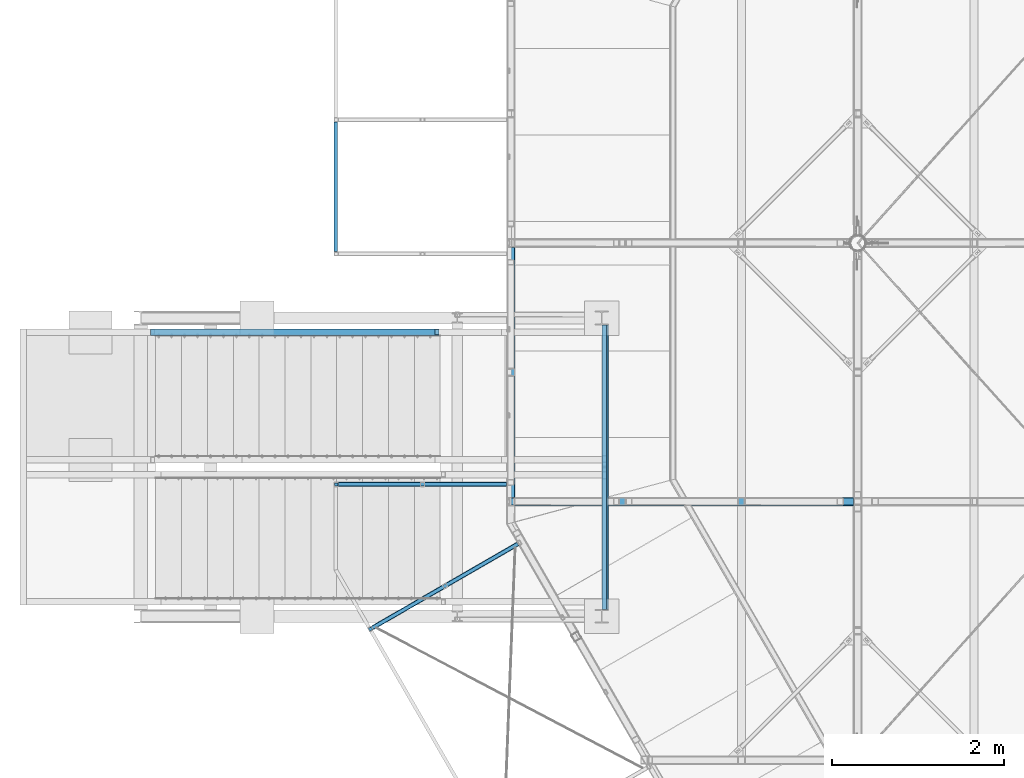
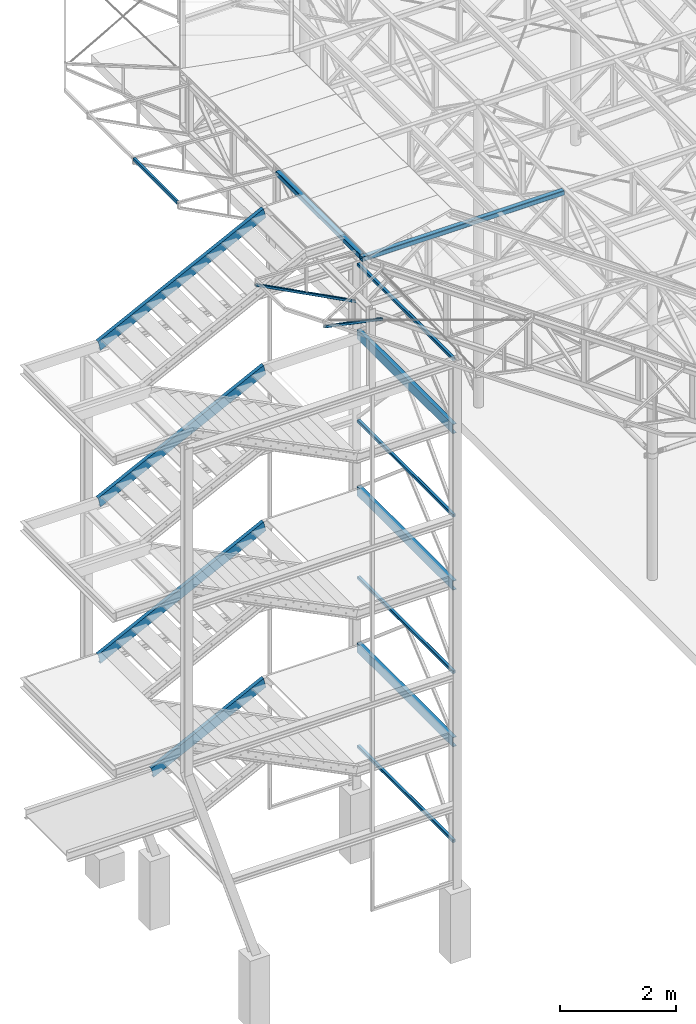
# One storey, part 7 of 132: 10 beams, 6 members, 16 elements without a shape of their own.
"""IFC2X3 building model written with IfcOpenShell, lengths in millimetres."""

import ifcopenshell
import ifcopenshell.guid

model = None  # the IFC model being written
_history = None  # IfcOwnerHistory: only IFC2X3 demands one
_inside = {}  # id of a spatial element -> (the spatial element, [elements in it])
_under = {}  # id of a project, library or spatial element -> (it, [spatial elements below it])
_declared = {}  # id of a project -> (the project, [libraries it declares])
_typed = {}  # id of a type object -> (the type object, [elements of that type])
_made_of = {}  # id of a material, layer set ... -> (it, [elements and type objects made of it])


def new_model(schema):
    """Start an empty IFC model of exactly this schema.

    Asked for "IFC4X3", IfcOpenShell would pick the latest addendum, in which some entities
    have other attributes; the version numbers below select the first issue.
    IFC2X3 requires an IfcOwnerHistory on every rooted entity: one is made here for all.
    """
    global model, _history
    if schema == "IFC4X3":
        model = ifcopenshell.file(schema_version=(4, 3, 0, 0))
    else:
        model = ifcopenshell.file(schema=schema)
    _inside.clear()
    _under.clear()
    _declared.clear()
    _typed.clear()
    _made_of.clear()
    _history = None
    if model.schema == "IFC2X3":
        org = make("IfcOrganization", Name="unknown")
        user = make(
            "IfcPersonAndOrganization",
            ThePerson=make("IfcPerson", FamilyName="unknown"),
            TheOrganization=org,
        )
        app = make(
            "IfcApplication",
            ApplicationDeveloper=org,
            Version="unknown",
            ApplicationFullName="unknown",
            ApplicationIdentifier="unknown",
        )
        _history = make(
            "IfcOwnerHistory",
            OwningUser=user,
            OwningApplication=app,
            ChangeAction="ADDED",
            CreationDate=0,
        )
    return model


def make(cls, **values):
    """One entity of the class cls with the attributes given. An attribute that is None is left unset."""
    return model.create_entity(
        cls, **{name: value for name, value in values.items() if value is not None}
    )


def rooted(cls, **values):
    """An entity with a GlobalId (a new one), such as an element, a storey or a relation."""
    return make(cls, GlobalId=ifcopenshell.guid.new(), OwnerHistory=_history, **values)


def si_unit(unit_type, name, prefix=None):
    """IfcSIUnit, for example si_unit("LENGTHUNIT", "METRE", prefix="MILLI")."""
    return make("IfcSIUnit", UnitType=unit_type, Prefix=prefix, Name=name)


def assignment(units):
    """IfcUnitAssignment: the units of a project."""
    return None if units is None else make("IfcUnitAssignment", Units=units)


def point(xyz):
    """IfcCartesianPoint."""
    return None if xyz is None else make("IfcCartesianPoint", Coordinates=xyz)


def direction(xyz):
    """IfcDirection."""
    return None if xyz is None else make("IfcDirection", DirectionRatios=xyz)


def frame(location, z_axis=None, x_axis=None):
    """IfcAxis2Placement3D, a coordinate frame: its origin and axes. An axis left out is left unset."""
    return make(
        "IfcAxis2Placement3D",
        Location=point(location),
        Axis=direction(z_axis),
        RefDirection=direction(x_axis),
    )


def frame_2d(location, x_axis=None):
    """IfcAxis2Placement2D, a coordinate frame in the plane: its origin and x axis."""
    return make(
        "IfcAxis2Placement2D", Location=point(location), RefDirection=direction(x_axis)
    )


def origin_with_axes():
    """The frame at (0, 0, 0) with the z axis (0, 0, 1) and the x axis (1, 0, 0) written out."""
    return frame((0.0, 0.0, 0.0), z_axis=(0.0, 0.0, 1.0), x_axis=(1.0, 0.0, 0.0))


def origin_2d_with_axis():
    """The frame at (0, 0) in the plane with the x axis (1, 0) written out."""
    return frame_2d((0.0, 0.0), x_axis=(1.0, 0.0))


def place(relative_to, where):
    """IfcLocalPlacement: puts the frame where relative to a parent placement (None: the world)."""
    return make(
        "IfcLocalPlacement", PlacementRelTo=relative_to, RelativePlacement=where
    )


def context(
    kind, dimensions, precision=None, world=None, true_north=None, identifier=None
):
    """IfcGeometricRepresentationContext, for example the 3D "Model" context."""
    return make(
        "IfcGeometricRepresentationContext",
        ContextIdentifier=identifier,
        ContextType=kind,
        CoordinateSpaceDimension=dimensions,
        Precision=precision,
        WorldCoordinateSystem=world,
        TrueNorth=true_north,
    )


def subcontext(parent, identifier, kind, view, scale=None):
    """IfcGeometricRepresentationSubContext, for example "Body" below "Model"."""
    return make(
        "IfcGeometricRepresentationSubContext",
        ContextIdentifier=identifier,
        ContextType=kind,
        ParentContext=parent,
        TargetScale=scale,
        TargetView=view,
    )


def project(units=None, contexts=None):
    """IfcProject with its units and contexts."""
    return rooted(
        "IfcProject",
        Name="project",
        RepresentationContexts=contexts,
        UnitsInContext=assignment(units),
    )


def spatial(cls, under=None, at=None, **own):
    """A site, building, storey or space (cls), placed at a placement, below another one or the project."""
    s = rooted(cls, ObjectPlacement=at, **own)
    if under is not None:
        _under.setdefault(under.id(), (under, []))[1].append(s)
    return s


def profile(cls, at=None, kind="AREA", **sizes):
    """A parametric profile (cls). Its sizes go by their IFC names, for example OverallWidth=200.0."""
    return make(cls, ProfileType=kind, Position=at, **sizes)


def hollow_rectangle(**sizes):
    """IfcRectangleHollowProfileDef."""
    return profile("IfcRectangleHollowProfileDef", **sizes)


def u_section(**sizes):
    """IfcUShapeProfileDef."""
    return profile("IfcUShapeProfileDef", **sizes)


def extrude(swept, where, along, depth):
    """IfcExtrudedAreaSolid: the profile swept, set in the frame where, extruded along a direction by depth."""
    return make(
        "IfcExtrudedAreaSolid",
        SweptArea=swept,
        Position=where,
        ExtrudedDirection=direction(along),
        Depth=depth,
    )


def clip(a, b, op="DIFFERENCE"):
    """IfcBooleanClippingResult: the solid a cut by the half space b."""
    return make(
        "IfcBooleanClippingResult", Operator=op, FirstOperand=a, SecondOperand=b
    )


def halfspace(plane, agree):
    """IfcHalfSpaceSolid: all space on one side of the plane z = 0 of the frame plane."""
    return make(
        "IfcHalfSpaceSolid",
        BaseSurface=make("IfcPlane", Position=plane),
        AgreementFlag=agree,
    )


def shape(context_of_items, identifier, shape_type, items):
    """IfcShapeRepresentation: the items that make up one representation, for example the "Body"."""
    return make(
        "IfcShapeRepresentation",
        ContextOfItems=context_of_items,
        RepresentationIdentifier=identifier,
        RepresentationType=shape_type,
        Items=items,
    )


def material(Name=None, Category=None):
    """IfcMaterial."""
    return make("IfcMaterial", Name=Name, Category=Category)


def made_of(thing, what):
    """Note that an element or type object is made of a material, layer set ...; save() writes the relation."""
    if what is not None:
        _made_of.setdefault(what.id(), (what, []))[1].append(thing)
    return thing


def type_object(cls, material=None, **own):
    """A type object (cls), such as IfcWallType, which elements share."""
    return made_of(rooted(cls, **own), material)


def element(
    cls,
    number,
    at=None,
    inside=None,
    cuts=None,
    type_object=None,
    material=None,
    context=None,
    identifier="Body",
    shape_type=None,
    held_by="IfcProductDefinitionShape",
    body=None,
    shapes=None,
    **own,
):
    """One element of the class cls, such as IfcWall. Its Tag is "e" and its number.

    at: its placement. inside: the storey or other place that contains it. cuts: it is an
    opening in that element (IfcRelVoidsElement). A single representation is given by context,
    identifier, shape_type and body (its items); several are given by shapes. held_by: the class
    of the entity that holds the representations. save() writes the other relations.
    """
    e = rooted(cls, Tag="e%d" % number, ObjectPlacement=at, **own)
    if body is not None:
        shapes = [shape(context, identifier, shape_type, body)]
    if shapes is not None:
        e.Representation = make(held_by, Representations=shapes)
    if inside is not None:
        _inside.setdefault(inside.id(), (inside, []))[1].append(e)
    if cuts is not None:
        rooted(
            "IfcRelVoidsElement", RelatingBuildingElement=cuts, RelatedOpeningElement=e
        )
    if type_object is not None:
        _typed.setdefault(type_object.id(), (type_object, []))[1].append(e)
    return made_of(e, material)


def aggregate(whole, parts):
    """IfcRelAggregates: a whole, such as a stair, and the parts it consists of."""
    return rooted("IfcRelAggregates", RelatingObject=whole, RelatedObjects=parts)


def save(model, path):
    """Write the relations noted so far, then the file.

    IfcRelAggregates (storeys below a building ...), IfcRelContainedInSpatialStructure (elements
    in a storey), IfcRelDefinesByType, IfcRelAssociatesMaterial and IfcRelDeclares: one each for
    every whole, place, type object, material and project.
    """
    for whole, parts in _under.values():
        aggregate(whole, parts)
    for where, things in _inside.values():
        rooted(
            "IfcRelContainedInSpatialStructure",
            RelatedElements=things,
            RelatingStructure=where,
        )
    for kind, things in _typed.values():
        rooted("IfcRelDefinesByType", RelatedObjects=things, RelatingType=kind)
    for what, things in _made_of.values():
        rooted("IfcRelAssociatesMaterial", RelatedObjects=things, RelatingMaterial=what)
    for by, libraries in _declared.values():
        rooted("IfcRelDeclares", RelatingContext=by, RelatedDefinitions=libraries)
    model.write(path)


model = new_model("IFC2X3")

# Units and contexts
model_context = context("Model", 3, precision=1e-05, world=origin_with_axes())
body_context = subcontext(model_context, "Body", "Model", "MODEL_VIEW")
ifc_project = project(units=[si_unit("LENGTHUNIT", "METRE", prefix="MILLI"), si_unit("AREAUNIT", "SQUARE_METRE"), si_unit("VOLUMEUNIT", "CUBIC_METRE"), si_unit("MASSUNIT", "GRAM", prefix="KILO"), si_unit("TIMEUNIT", "SECOND"), si_unit("PLANEANGLEUNIT", "RADIAN"), si_unit("SOLIDANGLEUNIT", "STERADIAN"), si_unit("THERMODYNAMICTEMPERATUREUNIT", "DEGREE_CELSIUS"), si_unit("LUMINOUSINTENSITYUNIT", "LUMEN")], contexts=[model_context])

# Site, building, storey
site_placement = place(None, origin_with_axes())
site = spatial("IfcSite", under=ifc_project, at=site_placement, Name="Budowa", CompositionType="ELEMENT")
building_placement = place(site_placement, origin_with_axes())
building = spatial("IfcBuilding", under=site, at=building_placement, Name="Undefined", CompositionType="ELEMENT")
storey_placement = place(building_placement, origin_with_axes())
storey = spatial("IfcBuildingStorey", under=building, at=storey_placement, Name="Undefined", CompositionType="ELEMENT", Elevation=0.0)

# Assembly, beam
assembly_1_placement = place(storey_placement, origin_with_axes())
assembly_1 = element("IfcElementAssembly", 1, at=assembly_1_placement, inside=storey, Name="Steel Assembly", AssemblyPlace="NOTDEFINED", PredefinedType="RIGID_FRAME")
ifc_material = material(Name="STEEL/S235")
beam_type_1 = type_object("IfcBeamType", Name="SHS60*4", PredefinedType="NOTDEFINED")
beam_1_placement = place(assembly_1_placement, frame((1084.99999991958, 7750.00000004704, 12070.0), z_axis=(0.0, 0.0, 1.0), x_axis=(0.0, 1.0, 0.0)))
beam_1 = element("IfcBeam", 2, at=beam_1_placement, type_object=beam_type_1, material=ifc_material, Name="COLUMN", ObjectType="SHS60*4", context=body_context, shape_type="SweptSolid", body=[
    extrude(hollow_rectangle(XDim=60.0, YDim=60.0, WallThickness=4.0, InnerFilletRadius=4.0, OuterFilletRadius=8.0, at=origin_2d_with_axis()), frame((3300.0, 0.0, 0.0), z_axis=(-1.0, 0.0, 0.0), x_axis=(0.0, -1.0, 0.0)), (0.0, 0.0, 1.0), 3300.0),
])
aggregate(assembly_1, [beam_1])

assembly_2_placement = place(storey_placement, origin_with_axes())
assembly_2 = element("IfcElementAssembly", 3, at=assembly_2_placement, inside=storey, Name="Steel Assembly", AssemblyPlace="NOTDEFINED", PredefinedType="RIGID_FRAME")
beam_2_placement = place(assembly_2_placement, frame((1084.99999991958, 7750.00000004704, 8770.0), z_axis=(0.0, 0.0, 1.0), x_axis=(0.0, 1.0, 0.0)))
beam_2 = element("IfcBeam", 4, at=beam_2_placement, type_object=beam_type_1, material=ifc_material, Name="COLUMN", ObjectType="SHS60*4", context=body_context, shape_type="SweptSolid", body=[
    extrude(hollow_rectangle(XDim=60.0, YDim=60.0, WallThickness=4.0, InnerFilletRadius=4.0, OuterFilletRadius=8.0, at=origin_2d_with_axis()), frame((3300.0, 0.0, 0.0), z_axis=(-1.0, 0.0, 0.0), x_axis=(0.0, -1.0, 0.0)), (0.0, 0.0, 1.0), 3300.0),
])
aggregate(assembly_2, [beam_2])

assembly_3_placement = place(storey_placement, origin_with_axes())
assembly_3 = element("IfcElementAssembly", 5, at=assembly_3_placement, inside=storey, Name="Steel Assembly", AssemblyPlace="NOTDEFINED", PredefinedType="RIGID_FRAME")
beam_3_placement = place(assembly_3_placement, frame((1084.99999991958, 7750.00000004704, 5470.0), z_axis=(0.0, 0.0, 1.0), x_axis=(0.0, 1.0, 0.0)))
beam_3 = element("IfcBeam", 6, at=beam_3_placement, type_object=beam_type_1, material=ifc_material, Name="COLUMN", ObjectType="SHS60*4", context=body_context, shape_type="SweptSolid", body=[
    extrude(hollow_rectangle(XDim=60.0, YDim=60.0, WallThickness=4.0, InnerFilletRadius=4.0, OuterFilletRadius=8.0, at=origin_2d_with_axis()), frame((3300.0, 0.0, 0.0), z_axis=(-1.0, 0.0, 0.0), x_axis=(0.0, -1.0, 0.0)), (0.0, 0.0, 1.0), 3300.0),
])
aggregate(assembly_3, [beam_3])

assembly_4_placement = place(storey_placement, origin_with_axes())
assembly_4 = element("IfcElementAssembly", 7, at=assembly_4_placement, inside=storey, Name="Steel Assembly", AssemblyPlace="NOTDEFINED", PredefinedType="RIGID_FRAME")
beam_4_placement = place(assembly_4_placement, frame((1084.99999991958, 7750.00000004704, 1910.0), z_axis=(0.0, 0.0, 1.0), x_axis=(0.0, 1.0, 0.0)))
beam_4 = element("IfcBeam", 8, at=beam_4_placement, type_object=beam_type_1, material=ifc_material, Name="COLUMN", ObjectType="SHS60*4", context=body_context, shape_type="SweptSolid", body=[
    extrude(hollow_rectangle(XDim=60.0, YDim=60.0, WallThickness=4.0, InnerFilletRadius=4.0, OuterFilletRadius=8.0, at=origin_2d_with_axis()), frame((3300.0, 0.0, 0.0), z_axis=(-1.0, 0.0, 0.0), x_axis=(0.0, -1.0, 0.0)), (0.0, 0.0, 1.0), 3300.0),
])
aggregate(assembly_4, [beam_4])

# Assembly, member
assembly_5_placement = place(storey_placement, origin_with_axes())
assembly_5 = element("IfcElementAssembly", 9, at=assembly_5_placement, inside=storey, Name="Steel Assembly", AssemblyPlace="NOTDEFINED", PredefinedType="RIGID_FRAME")
member_type_1 = type_object("IfcMemberType", Name="UPN200", PredefinedType="NOTDEFINED")
member_1_placement = place(assembly_5_placement, frame((-835.278640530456, 10962.5000000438, 13910.5572809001), z_axis=(-0.447213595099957, 0.0, 0.894427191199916), x_axis=(-0.894427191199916, 0.0, -0.447213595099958)))
member_1 = element("IfcMember", 10, at=member_1_placement, type_object=member_type_1, material=ifc_material, Name="BELKA", ObjectType="UPN200", context=body_context, shape_type="Clipping", body=[
    clip(clip(extrude(u_section(Depth=200.0, FlangeWidth=75.0, WebThickness=8.5, FlangeThickness=11.5, FilletRadius=11.5, EdgeRadius=6.0, at=origin_2d_with_axis()), frame((3846.10752494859, 0.0, 0.0), z_axis=(-1.0, 0.0, 0.0), x_axis=(0.0, -1.0, 0.0)), (0.0, 0.0, 1.0), 3955.49), halfspace(frame((3689.51216621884, -1.81898940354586e-12, 99.9999999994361), z_axis=(0.973248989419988, 0.0, 0.229752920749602), x_axis=(0.0, 1.0, 0.0)), False)), halfspace(frame((3.68624523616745e-06, -37.5000000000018, 99.9999999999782), z_axis=(-0.97324898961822, 0.0, -0.229752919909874), x_axis=(0.0, -1.0, 0.0)), False)),
])
aggregate(assembly_5, [member_1])

assembly_6_placement = place(storey_placement, origin_with_axes())
assembly_6 = element("IfcElementAssembly", 11, at=assembly_6_placement, inside=storey, Name="Steel Assembly", AssemblyPlace="NOTDEFINED", PredefinedType="RIGID_FRAME")
member_2_placement = place(assembly_6_placement, frame((-835.278640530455, 10962.5000000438, 10610.5572809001), z_axis=(-0.447213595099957, 0.0, 0.894427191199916), x_axis=(-0.894427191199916, 0.0, -0.447213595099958)))
member_2 = element("IfcMember", 12, at=member_2_placement, type_object=member_type_1, material=ifc_material, Name="BELKA", ObjectType="UPN200", context=body_context, shape_type="Clipping", body=[
    clip(clip(extrude(u_section(Depth=200.0, FlangeWidth=75.0, WebThickness=8.5, FlangeThickness=11.5, FilletRadius=11.5, EdgeRadius=6.0, at=origin_2d_with_axis()), frame((3846.10752494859, 0.0, 0.0), z_axis=(-1.0, 0.0, 0.0), x_axis=(0.0, -1.0, 0.0)), (0.0, 0.0, 1.0), 3955.49), halfspace(frame((3689.51216621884, -1.81898940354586e-12, 99.9999999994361), z_axis=(0.973248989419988, 0.0, 0.229752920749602), x_axis=(0.0, 1.0, 0.0)), False)), halfspace(frame((3.68624523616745e-06, -37.5000000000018, 99.9999999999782), z_axis=(-0.97324898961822, 0.0, -0.229752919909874), x_axis=(0.0, -1.0, 0.0)), False)),
])
aggregate(assembly_6, [member_2])

assembly_7_placement = place(storey_placement, origin_with_axes())
assembly_7 = element("IfcElementAssembly", 13, at=assembly_7_placement, inside=storey, Name="Steel Assembly", AssemblyPlace="NOTDEFINED", PredefinedType="RIGID_FRAME")
member_3_placement = place(assembly_7_placement, frame((-835.278640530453, 10962.5000000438, 7310.5572809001), z_axis=(-0.447213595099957, 0.0, 0.894427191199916), x_axis=(-0.894427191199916, 0.0, -0.447213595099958)))
member_3 = element("IfcMember", 14, at=member_3_placement, type_object=member_type_1, material=ifc_material, Name="BELKA", ObjectType="UPN200", context=body_context, shape_type="Clipping", body=[
    clip(clip(extrude(u_section(Depth=200.0, FlangeWidth=75.0, WebThickness=8.5, FlangeThickness=11.5, FilletRadius=11.5, EdgeRadius=6.0, at=origin_2d_with_axis()), frame((3846.10752494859, 0.0, 0.0), z_axis=(-1.0, 0.0, 0.0), x_axis=(0.0, -1.0, 0.0)), (0.0, 0.0, 1.0), 3955.49), halfspace(frame((3689.51216621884, -1.81898940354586e-12, 99.9999999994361), z_axis=(0.973248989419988, 0.0, 0.229752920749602), x_axis=(0.0, 1.0, 0.0)), False)), halfspace(frame((3.68624523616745e-06, -37.5000000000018, 99.9999999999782), z_axis=(-0.97324898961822, 0.0, -0.229752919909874), x_axis=(0.0, -1.0, 0.0)), False)),
])
aggregate(assembly_7, [member_3])

assembly_8_placement = place(storey_placement, origin_with_axes())
assembly_8 = element("IfcElementAssembly", 15, at=assembly_8_placement, inside=storey, Name="Steel Assembly", AssemblyPlace="NOTDEFINED", PredefinedType="RIGID_FRAME")
member_4_placement = place(assembly_8_placement, frame((-835.278640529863, 10962.5000000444, 4010.55728089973), z_axis=(-0.447213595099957, 0.0, 0.894427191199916), x_axis=(-0.894427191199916, 0.0, -0.447213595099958)))
member_4 = element("IfcMember", 16, at=member_4_placement, type_object=member_type_1, material=ifc_material, Name="BELKA", ObjectType="UPN200", context=body_context, shape_type="Clipping", body=[
    clip(clip(extrude(u_section(Depth=200.0, FlangeWidth=75.0, WebThickness=8.5, FlangeThickness=11.5, FilletRadius=11.5, EdgeRadius=6.0, at=origin_2d_with_axis()), frame((2660.99149153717, 1.81898940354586e-12, 0.0), z_axis=(-1.0, 0.0, 0.0), x_axis=(0.0, -1.0, 0.0)), (0.0, 0.0, 1.0), 2770.37), halfspace(frame((2504.39613251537, 1.56433088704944e-09, 100.000000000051), z_axis=(0.973248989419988, 0.0, 0.229752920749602), x_axis=(0.0, 1.0, 0.0)), False)), halfspace(frame((3.68624523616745e-06, -37.5000000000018, 99.9999999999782), z_axis=(-0.97324898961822, 0.0, -0.229752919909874), x_axis=(0.0, -1.0, 0.0)), False)),
])
aggregate(assembly_8, [member_4])

# Assembly, beam
assembly_9_placement = place(storey_placement, origin_with_axes())
assembly_9 = element("IfcElementAssembly", 17, at=assembly_9_placement, inside=storey, Name="Steel Assembly", AssemblyPlace="NOTDEFINED", PredefinedType="RIGID_FRAME")
beam_type_2 = type_object("IfcBeamType", Name="UPE200", PredefinedType="NOTDEFINED")
beam_5_placement = place(assembly_9_placement, frame((1094.99999991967, 7750.00000004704, 10600.0), z_axis=(0.0, 0.0, 1.0), x_axis=(0.0, 1.0, 0.0)))
beam_5 = element("IfcBeam", 18, at=beam_5_placement, type_object=beam_type_2, material=ifc_material, Name="COLUMN", ObjectType="UPE200", context=body_context, shape_type="SweptSolid", body=[
    extrude(u_section(Depth=200.0, FlangeWidth=80.0, WebThickness=7.5, FlangeThickness=11.0, FilletRadius=12.0, EdgeRadius=3.0, at=origin_2d_with_axis()), frame((3300.0, 0.0, 0.0), z_axis=(-1.0, 0.0, 0.0), x_axis=(0.0, -1.0, 0.0)), (0.0, 0.0, 1.0), 3300.0),
])
aggregate(assembly_9, [beam_5])

assembly_10_placement = place(storey_placement, origin_with_axes())
assembly_10 = element("IfcElementAssembly", 19, at=assembly_10_placement, inside=storey, Name="Steel Assembly", AssemblyPlace="NOTDEFINED", PredefinedType="RIGID_FRAME")
beam_6_placement = place(assembly_10_placement, frame((1094.99999991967, 7750.00000004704, 7300.0), z_axis=(0.0, 0.0, 1.0), x_axis=(0.0, 1.0, 0.0)))
beam_6 = element("IfcBeam", 20, at=beam_6_placement, type_object=beam_type_2, material=ifc_material, Name="COLUMN", ObjectType="UPE200", context=body_context, shape_type="SweptSolid", body=[
    extrude(u_section(Depth=200.0, FlangeWidth=80.0, WebThickness=7.5, FlangeThickness=11.0, FilletRadius=12.0, EdgeRadius=3.0, at=origin_2d_with_axis()), frame((3300.0, 0.0, 0.0), z_axis=(-1.0, 0.0, 0.0), x_axis=(0.0, -1.0, 0.0)), (0.0, 0.0, 1.0), 3300.0),
])
aggregate(assembly_10, [beam_6])

assembly_11_placement = place(storey_placement, origin_with_axes())
assembly_11 = element("IfcElementAssembly", 21, at=assembly_11_placement, inside=storey, Name="Steel Assembly", AssemblyPlace="NOTDEFINED", PredefinedType="RIGID_FRAME")
beam_7_placement = place(assembly_11_placement, frame((1094.99999991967, 7750.00000004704, 4000.0), z_axis=(0.0, 0.0, 1.0), x_axis=(0.0, 1.0, 0.0)))
beam_7 = element("IfcBeam", 22, at=beam_7_placement, type_object=beam_type_2, material=ifc_material, Name="COLUMN", ObjectType="UPE200", context=body_context, shape_type="SweptSolid", body=[
    extrude(u_section(Depth=200.0, FlangeWidth=80.0, WebThickness=7.5, FlangeThickness=11.0, FilletRadius=12.0, EdgeRadius=3.0, at=origin_2d_with_axis()), frame((3300.0, 0.0, 0.0), z_axis=(-1.0, 0.0, 0.0), x_axis=(0.0, -1.0, 0.0)), (0.0, 0.0, 1.0), 3300.0),
])
aggregate(assembly_11, [beam_7])

assembly_12_placement = place(storey_placement, origin_with_axes())
assembly_12 = element("IfcElementAssembly", 23, at=assembly_12_placement, inside=storey, Name="Steel Assembly", AssemblyPlace="NOTDEFINED", PredefinedType="RIGID_FRAME")
beam_type_3 = type_object("IfcBeamType", Name="C70*40*4", PredefinedType="NOTDEFINED")
beam_8_placement = place(assembly_12_placement, frame((-2030.0003815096, 13405.000000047, 13945.0050191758), z_axis=(0.0, 0.0, -1.0), x_axis=(0.0, -1.0, 0.0)))
beam_8 = element("IfcBeam", 24, at=beam_8_placement, type_object=beam_type_3, material=ifc_material, Name="BEAM", ObjectType="C70*40*4", context=body_context, shape_type="SweptSolid", body=[
    extrude(u_section(Depth=70.0, FlangeWidth=40.0, WebThickness=4.0, FlangeThickness=4.0, FilletRadius=6.0, at=origin_2d_with_axis()), frame((1505.00000000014, 0.0, 0.0), z_axis=(-1.0, 0.0, 0.0), x_axis=(0.0, -1.0, 0.0)), (0.0, 0.0, 1.0), 1505.0),
])
aggregate(assembly_12, [beam_8])

# Assembly, member
assembly_13_placement = place(storey_placement, origin_with_axes())
assembly_13 = element("IfcElementAssembly", 25, at=assembly_13_placement, inside=storey, Name="Steel Assembly", AssemblyPlace="NOTDEFINED", PredefinedType="RIGID_FRAME")
member_type_2 = type_object("IfcMemberType", Name="SHS50*4", PredefinedType="NOTDEFINED")
member_5_placement = place(assembly_13_placement, frame((-38.2796111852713, 9200.00000004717, 12802.1351883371), z_axis=(0.0, 1.0, 0.0), x_axis=(-0.885407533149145, 0.0, 0.464815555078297)))
member_5 = element("IfcMember", 26, at=member_5_placement, type_object=member_type_2, material=ifc_material, Name="BEAM", ObjectType="SHS50*4", context=body_context, shape_type="Clipping", body=[
    clip(clip(extrude(hollow_rectangle(XDim=50.0, YDim=50.0, WallThickness=4.0, InnerFilletRadius=4.0, OuterFilletRadius=8.0, at=origin_2d_with_axis()), frame((2286.55526217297, 7.105427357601e-15, -1.81898940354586e-12), z_axis=(-1.0, 0.0, 0.0), x_axis=(0.0, -1.0, 0.0)), (0.0, 0.0, 1.0), 2286.56), halfspace(frame((26.2486785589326, 24.9999999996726, -25.0000000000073), z_axis=(-0.885407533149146, 0.464815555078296, 0.0), x_axis=(0.0, 0.0, 1.0)), False)), halfspace(frame((2258.9602037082, -25.0000000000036, -1.40062184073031e-10), z_axis=(-0.855808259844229, -0.517293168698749, 0.0), x_axis=(0.0, 0.0, -1.0)), True)),
])
aggregate(assembly_13, [member_5])

assembly_14_placement = place(storey_placement, origin_with_axes())
assembly_14 = element("IfcElementAssembly", 27, at=assembly_14_placement, inside=storey, Name="Steel Assembly", AssemblyPlace="NOTDEFINED", PredefinedType="RIGID_FRAME")
member_6_placement = place(assembly_14_placement, frame((92.0815023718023, 8515.17963885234, 12802.1351883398), z_axis=(0.499969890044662, -0.866042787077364, 0.0), x_axis=(-0.766800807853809, -0.442677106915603, 0.464815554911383)))
member_6 = element("IfcMember", 28, at=member_6_placement, type_object=member_type_2, material=ifc_material, Name="BEAM", ObjectType="SHS50*4", context=body_context, shape_type="Clipping", body=[
    clip(clip(extrude(hollow_rectangle(XDim=50.0, YDim=50.0, WallThickness=4.0, InnerFilletRadius=4.0, OuterFilletRadius=8.0, at=origin_2d_with_axis()), frame((2325.27637080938, 1.2907876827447e-13, 5.21059351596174e-14), z_axis=(-1.0, 0.0, 0.0), x_axis=(0.0, -1.0, 0.0)), (0.0, 0.0, 1.0), 2325.28), halfspace(frame((26.2486785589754, -24.9999999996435, -25.0000000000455), z_axis=(-0.885407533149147, -0.464815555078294, 0.0), x_axis=(-0.464815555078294, 0.885407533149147, 0.0)), False)), halfspace(frame((2258.9602037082, 25.0000000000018, -1.41881173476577e-10), z_axis=(-0.855808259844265, 0.517293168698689, 0.0), x_axis=(0.0, 0.0, 1.0)), True)),
])
aggregate(assembly_14, [member_6])

# Assembly, beam
assembly_15_placement = place(storey_placement, origin_with_axes())
assembly_15 = element("IfcElementAssembly", 29, at=assembly_15_placement, inside=storey, Name="Steel Assembly", AssemblyPlace="NOTDEFINED", PredefinedType="RIGID_FRAME")
beam_type_4 = type_object("IfcBeamType", Name="SHS100*8", PredefinedType="NOTDEFINED")
beam_9_placement = place(assembly_15_placement, frame((0.0999999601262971, 11950.000000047, 13830.0), z_axis=(1.0, 0.0, 0.0), x_axis=(0.0, -1.0, 0.0)))
beam_9 = element("IfcBeam", 30, at=beam_9_placement, type_object=beam_type_4, material=ifc_material, Name="BEAM", ObjectType="SHS100*8", context=body_context, shape_type="SweptSolid", body=[
    extrude(hollow_rectangle(XDim=100.0, YDim=100.0, WallThickness=8.0, InnerFilletRadius=8.0, OuterFilletRadius=16.0, at=origin_2d_with_axis()), frame((2900.00000000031, 0.0, 0.0), z_axis=(-1.0, 0.0, 0.0), x_axis=(0.0, -1.0, 0.0)), (0.0, 0.0, 1.0), 2900.0),
])
aggregate(assembly_15, [beam_9])

assembly_16_placement = place(storey_placement, origin_with_axes())
assembly_16 = element("IfcElementAssembly", 31, at=assembly_16_placement, inside=storey, Name="Steel Assembly", AssemblyPlace="NOTDEFINED", PredefinedType="RIGID_FRAME")
beam_10_placement = place(assembly_16_placement, frame((3975.09999996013, 9000.00000004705, 13830.0), z_axis=(0.0, -1.0, 0.0), x_axis=(-1.0, 0.0, 0.0)))
beam_10 = element("IfcBeam", 32, at=beam_10_placement, type_object=beam_type_4, material=ifc_material, Name="BEAM", ObjectType="SHS100*8", context=body_context, shape_type="SweptSolid", body=[
    extrude(hollow_rectangle(XDim=100.0, YDim=100.0, WallThickness=8.0, InnerFilletRadius=8.0, OuterFilletRadius=16.0, at=origin_2d_with_axis()), frame((4025.0, 0.0, 0.0), z_axis=(-1.0, 0.0, 0.0), x_axis=(0.0, -1.0, 0.0)), (0.0, 0.0, 1.0), 4025.0),
])
aggregate(assembly_16, [beam_10])

save(model, "model.ifc")
